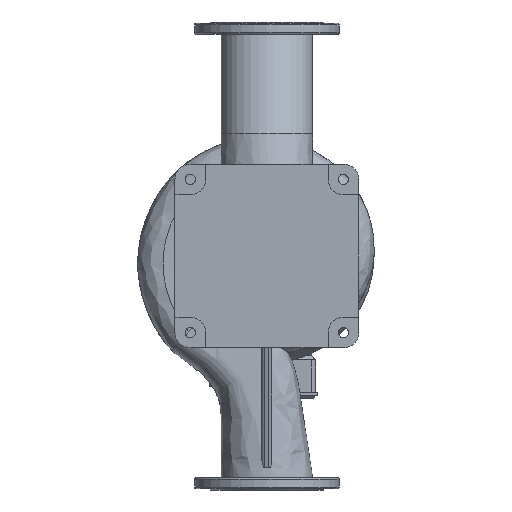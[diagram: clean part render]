
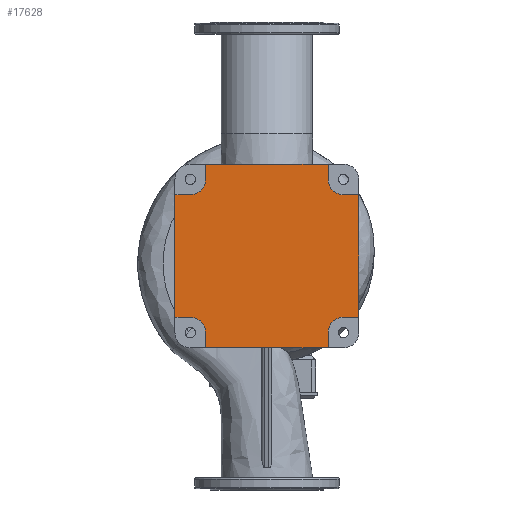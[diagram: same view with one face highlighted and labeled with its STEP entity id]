
A CAD part, front view. The second image highlights one B-rep face of the part: STEP entity #17628.
In plain terms, the highlighted planar face has unit normal (0, -1, 0).
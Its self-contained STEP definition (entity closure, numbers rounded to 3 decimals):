
#163 = LINE ( 'NONE', #16334, #6634 ) ;
#254 = AXIS2_PLACEMENT_3D ( 'NONE', #7153, #23171, #1837 ) ;
#394 = VERTEX_POINT ( 'NONE', #8178 ) ;
#1075 = EDGE_CURVE ( 'NONE', #6205, #31309, #28131, .T. ) ;
#1112 = PLANE ( 'NONE',  #29537 ) ;
#1762 = CARTESIAN_POINT ( 'NONE',  ( -144., -265., -216. ) ) ;
#1786 = CARTESIAN_POINT ( 'NONE',  ( -144., -265., 216. ) ) ;
#1837 = DIRECTION ( 'NONE',  ( 0., 0., 1. ) ) ;
#2055 = EDGE_CURVE ( 'NONE', #30084, #394, #20594, .T. ) ;
#2097 = LINE ( 'NONE', #12931, #31342 ) ;
#2303 = VECTOR ( 'NONE', #27590, 1000. ) ;
#3078 = LINE ( 'NONE', #33288, #9480 ) ;
#3443 = DIRECTION ( 'NONE',  ( -1., 0., 0. ) ) ;
#3775 = VECTOR ( 'NONE', #26267, 1000. ) ;
#4120 = VECTOR ( 'NONE', #15893, 1000. ) ;
#4993 = VERTEX_POINT ( 'NONE', #10480 ) ;
#5173 = ORIENTED_EDGE ( 'NONE', *, *, #34693, .T. ) ;
#6205 = VERTEX_POINT ( 'NONE', #27174 ) ;
#6332 = VERTEX_POINT ( 'NONE', #11358 ) ;
#6482 = VECTOR ( 'NONE', #31279, 1000. ) ;
#6634 = VECTOR ( 'NONE', #18833, 1000. ) ;
#6721 = ORIENTED_EDGE ( 'NONE', *, *, #25877, .T. ) ;
#7153 = CARTESIAN_POINT ( 'NONE',  ( 180., -265., -180. ) ) ;
#7703 = EDGE_CURVE ( 'NONE', #31794, #6332, #2097, .T. ) ;
#8164 = EDGE_CURVE ( 'NONE', #9359, #13395, #29756, .T. ) ;
#8178 = CARTESIAN_POINT ( 'NONE',  ( 216., -265., -144. ) ) ;
#8970 = ORIENTED_EDGE ( 'NONE', *, *, #10128, .T. ) ;
#9214 = CARTESIAN_POINT ( 'NONE',  ( 144., -265., -180. ) ) ;
#9359 = VERTEX_POINT ( 'NONE', #13413 ) ;
#9480 = VECTOR ( 'NONE', #13915, 1000. ) ;
#9936 = CARTESIAN_POINT ( 'NONE',  ( 144., -265., -216. ) ) ;
#10128 = EDGE_CURVE ( 'NONE', #13115, #22672, #3078, .T. ) ;
#10387 = LINE ( 'NONE', #21242, #4120 ) ;
#10480 = CARTESIAN_POINT ( 'NONE',  ( -216., -265., 144. ) ) ;
#10658 = VERTEX_POINT ( 'NONE', #19752 ) ;
#11246 = DIRECTION ( 'NONE',  ( 0., 1., 0. ) ) ;
#11278 = VECTOR ( 'NONE', #17333, 1000. ) ;
#11358 = CARTESIAN_POINT ( 'NONE',  ( -180., -265., -144. ) ) ;
#11767 = CARTESIAN_POINT ( 'NONE',  ( -180., -265., -180. ) ) ;
#12312 = CARTESIAN_POINT ( 'NONE',  ( -144., -265., -180. ) ) ;
#12645 = ORIENTED_EDGE ( 'NONE', *, *, #31990, .T. ) ;
#12931 = CARTESIAN_POINT ( 'NONE',  ( -180., -265., -144. ) ) ;
#13043 = LINE ( 'NONE', #18559, #14100 ) ;
#13096 = AXIS2_PLACEMENT_3D ( 'NONE', #15095, #26926, #18106 ) ;
#13115 = VERTEX_POINT ( 'NONE', #12312 ) ;
#13117 = EDGE_CURVE ( 'NONE', #13395, #30084, #15587, .T. ) ;
#13379 = ORIENTED_EDGE ( 'NONE', *, *, #33647, .T. ) ;
#13395 = VERTEX_POINT ( 'NONE', #9214 ) ;
#13413 = CARTESIAN_POINT ( 'NONE',  ( 144., -265., -216. ) ) ;
#13915 = DIRECTION ( 'NONE',  ( 0., 0., -1. ) ) ;
#14100 = VECTOR ( 'NONE', #24428, 1000. ) ;
#14133 = LINE ( 'NONE', #14849, #11278 ) ;
#14407 = CARTESIAN_POINT ( 'NONE',  ( 144., -265., 180. ) ) ;
#14582 = EDGE_CURVE ( 'NONE', #4993, #31794, #13043, .T. ) ;
#14618 = CARTESIAN_POINT ( 'NONE',  ( 144., -265., 180. ) ) ;
#14849 = CARTESIAN_POINT ( 'NONE',  ( 216., -265., 144. ) ) ;
#15095 = CARTESIAN_POINT ( 'NONE',  ( 180., -265., 180. ) ) ;
#15183 = ORIENTED_EDGE ( 'NONE', *, *, #21199, .T. ) ;
#15587 = CIRCLE ( 'NONE', #254, 36. ) ;
#15741 = ORIENTED_EDGE ( 'NONE', *, *, #1075, .T. ) ;
#15869 = ORIENTED_EDGE ( 'NONE', *, *, #14582, .T. ) ;
#15893 = DIRECTION ( 'NONE',  ( -1., 0., 0. ) ) ;
#16334 = CARTESIAN_POINT ( 'NONE',  ( 180., -265., 144. ) ) ;
#17083 = LINE ( 'NONE', #14407, #6482 ) ;
#17333 = DIRECTION ( 'NONE',  ( 0., 0., 1. ) ) ;
#17356 = VECTOR ( 'NONE', #22312, 1000. ) ;
#17369 = VERTEX_POINT ( 'NONE', #18721 ) ;
#17475 = EDGE_CURVE ( 'NONE', #31309, #30609, #30789, .T. ) ;
#17628 = ADVANCED_FACE ( 'NONE', ( #33283 ), #1112, .F. ) ;
#17755 = ORIENTED_EDGE ( 'NONE', *, *, #8164, .T. ) ;
#18106 = DIRECTION ( 'NONE',  ( 0., 0., 1. ) ) ;
#18357 = CARTESIAN_POINT ( 'NONE',  ( -180., -265., 180. ) ) ;
#18377 = EDGE_CURVE ( 'NONE', #394, #10658, #14133, .T. ) ;
#18559 = CARTESIAN_POINT ( 'NONE',  ( -216., -265., -144. ) ) ;
#18721 = CARTESIAN_POINT ( 'NONE',  ( 180., -265., 144. ) ) ;
#18818 = CARTESIAN_POINT ( 'NONE',  ( -180., -265., 144. ) ) ;
#18833 = DIRECTION ( 'NONE',  ( -1., 0., 0. ) ) ;
#19752 = CARTESIAN_POINT ( 'NONE',  ( 216., -265., 144. ) ) ;
#20076 = CARTESIAN_POINT ( 'NONE',  ( -216., -265., -144. ) ) ;
#20103 = DIRECTION ( 'NONE',  ( 1., 0., 0. ) ) ;
#20594 = LINE ( 'NONE', #34612, #3775 ) ;
#20690 = ORIENTED_EDGE ( 'NONE', *, *, #18377, .T. ) ;
#20767 = DIRECTION ( 'NONE',  ( 0., 1., 0. ) ) ;
#21199 = EDGE_CURVE ( 'NONE', #17369, #26982, #26726, .T. ) ;
#21242 = CARTESIAN_POINT ( 'NONE',  ( -180., -265., 144. ) ) ;
#21553 = DIRECTION ( 'NONE',  ( 0., 1., 0. ) ) ;
#21763 = CARTESIAN_POINT ( 'NONE',  ( -144., -265., 180. ) ) ;
#22312 = DIRECTION ( 'NONE',  ( 0., 0., 1. ) ) ;
#22623 = ORIENTED_EDGE ( 'NONE', *, *, #28957, .T. ) ;
#22626 = DIRECTION ( 'NONE',  ( 0., 0., 1. ) ) ;
#22672 = VERTEX_POINT ( 'NONE', #1762 ) ;
#23171 = DIRECTION ( 'NONE',  ( 0., 1., 0. ) ) ;
#23931 = VECTOR ( 'NONE', #20103, 1000. ) ;
#24428 = DIRECTION ( 'NONE',  ( 0., 0., -1. ) ) ;
#25845 = CIRCLE ( 'NONE', #30382, 36. ) ;
#25877 = EDGE_CURVE ( 'NONE', #22672, #9359, #27585, .T. ) ;
#26267 = DIRECTION ( 'NONE',  ( 1., 0., 0. ) ) ;
#26522 = DIRECTION ( 'NONE',  ( 0., 0., 1. ) ) ;
#26726 = CIRCLE ( 'NONE', #13096, 36. ) ;
#26926 = DIRECTION ( 'NONE',  ( 0., 1., 0. ) ) ;
#26982 = VERTEX_POINT ( 'NONE', #14618 ) ;
#27087 = DIRECTION ( 'NONE',  ( 0., 0., 1. ) ) ;
#27174 = CARTESIAN_POINT ( 'NONE',  ( 144., -265., 216. ) ) ;
#27219 = ORIENTED_EDGE ( 'NONE', *, *, #7703, .T. ) ;
#27476 = CARTESIAN_POINT ( 'NONE',  ( 180., -265., -144. ) ) ;
#27585 = LINE ( 'NONE', #9936, #23931 ) ;
#27590 = DIRECTION ( 'NONE',  ( 0., 0., -1. ) ) ;
#27620 = CARTESIAN_POINT ( 'NONE',  ( 144., -265., -180. ) ) ;
#27715 = VECTOR ( 'NONE', #3443, 1000. ) ;
#27785 = CARTESIAN_POINT ( 'NONE',  ( -144., -265., 216. ) ) ;
#28023 = VERTEX_POINT ( 'NONE', #18818 ) ;
#28131 = LINE ( 'NONE', #27785, #27715 ) ;
#28214 = AXIS2_PLACEMENT_3D ( 'NONE', #32426, #20767, #27087 ) ;
#28957 = EDGE_CURVE ( 'NONE', #28023, #4993, #10387, .T. ) ;
#29347 = ORIENTED_EDGE ( 'NONE', *, *, #31512, .T. ) ;
#29537 = AXIS2_PLACEMENT_3D ( 'NONE', #11767, #11246, #22626 ) ;
#29632 = DIRECTION ( 'NONE',  ( 1., 0., 0. ) ) ;
#29756 = LINE ( 'NONE', #27620, #17356 ) ;
#30084 = VERTEX_POINT ( 'NONE', #27476 ) ;
#30382 = AXIS2_PLACEMENT_3D ( 'NONE', #18357, #21553, #26522 ) ;
#30431 = CARTESIAN_POINT ( 'NONE',  ( -144., -265., 180. ) ) ;
#30507 = CIRCLE ( 'NONE', #28214, 36. ) ;
#30609 = VERTEX_POINT ( 'NONE', #21763 ) ;
#30789 = LINE ( 'NONE', #30431, #2303 ) ;
#31279 = DIRECTION ( 'NONE',  ( 0., 0., 1. ) ) ;
#31309 = VERTEX_POINT ( 'NONE', #1786 ) ;
#31342 = VECTOR ( 'NONE', #29632, 1000. ) ;
#31512 = EDGE_CURVE ( 'NONE', #10658, #17369, #163, .T. ) ;
#31708 = ORIENTED_EDGE ( 'NONE', *, *, #17475, .T. ) ;
#31794 = VERTEX_POINT ( 'NONE', #20076 ) ;
#31990 = EDGE_CURVE ( 'NONE', #6332, #13115, #30507, .T. ) ;
#32426 = CARTESIAN_POINT ( 'NONE',  ( -180., -265., -180. ) ) ;
#33283 = FACE_OUTER_BOUND ( 'NONE', #33703, .T. ) ;
#33288 = CARTESIAN_POINT ( 'NONE',  ( -144., -265., -180. ) ) ;
#33647 = EDGE_CURVE ( 'NONE', #26982, #6205, #17083, .T. ) ;
#33703 = EDGE_LOOP ( 'NONE', ( #12645, #8970, #6721, #17755, #34029, #35112, #20690, #29347, #15183, #13379, #15741, #31708, #5173, #22623, #15869, #27219 ) ) ;
#34029 = ORIENTED_EDGE ( 'NONE', *, *, #13117, .T. ) ;
#34612 = CARTESIAN_POINT ( 'NONE',  ( 180., -265., -144. ) ) ;
#34693 = EDGE_CURVE ( 'NONE', #30609, #28023, #25845, .T. ) ;
#35112 = ORIENTED_EDGE ( 'NONE', *, *, #2055, .T. ) ;
